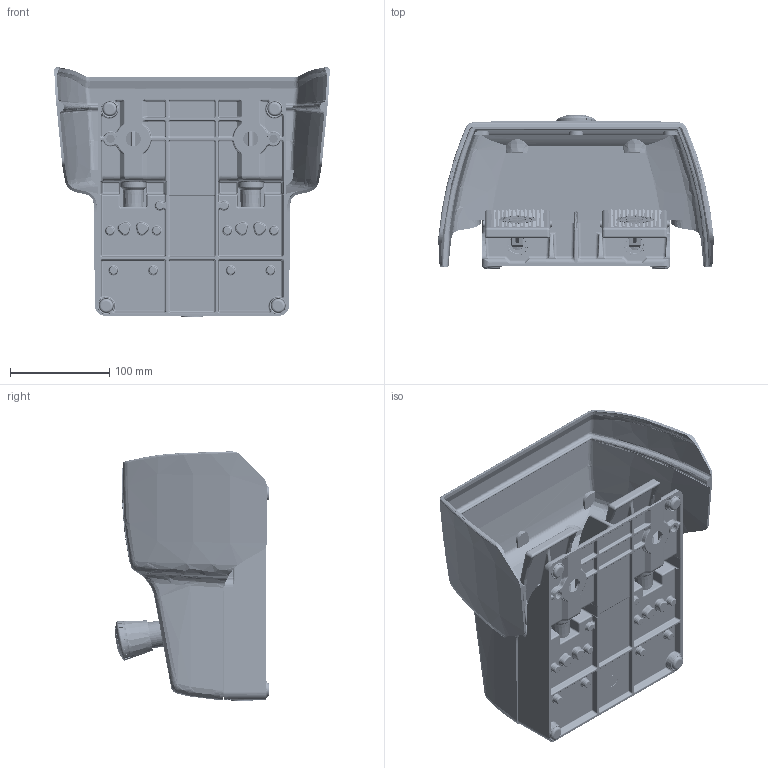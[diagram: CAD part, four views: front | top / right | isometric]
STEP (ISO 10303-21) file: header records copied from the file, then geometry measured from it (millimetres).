
FILE_DESCRIPTION((''),'2;1');
FILE_NAME('6162720435_SW0001','2014-01-13T',('Yvonne.Storm'),(''),'PRO/ENGINEER BY PARAMETRIC TECHNOLOGY CORPORATION, 2012360','PRO/ENGINEER BY PARAMETRIC TECHNOLOGY CORPORATION, 2012360','');
FILE_SCHEMA(('AUTOMOTIVE_DESIGN { 1 0 10303 214 1 1 1 1 }'));
Products named in the file (1): 6162720435_SW0001
Bounding box: 277.04 x 155.6 x 250.74 mm (x, y, z)
Volume: 1032301.1 mm3; surface area: 530128 mm2
Topology: 3 solids, 5 shells, 7296 faces, 18014 edges, 11215 vertices
Faces by surface type: plane 4300, cylinder 1407, bspline 772, torus 425, cone 227, sphere 155, extrusion 10
Entity records: 446401 total; most frequent: CARTESIAN_POINT 160837, ORIENTED_EDGE 35978, DIRECTION 32556, PRESENTATION_STYLE_ASSIGNMENT 25205, STYLED_ITEM 18004, CURVE_STYLE 17999, EDGE_CURVE 17989, VECTOR 11842
